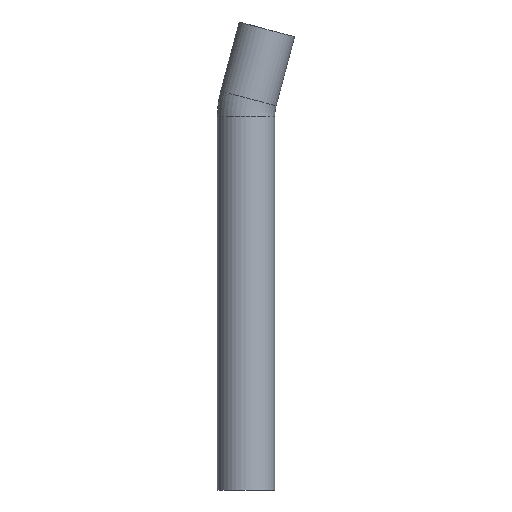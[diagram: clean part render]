
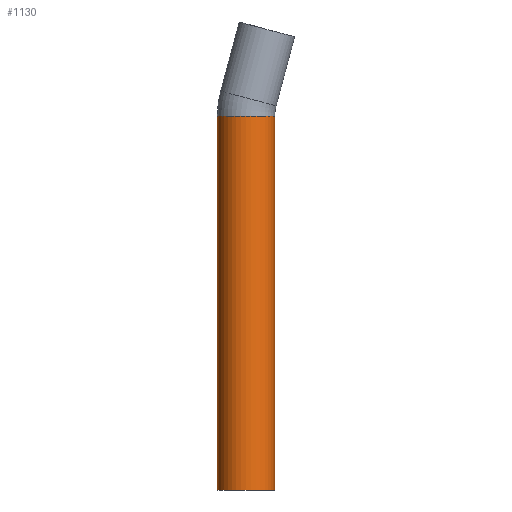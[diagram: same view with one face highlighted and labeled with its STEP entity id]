
A CAD part, front view. The second image highlights one B-rep face of the part: STEP entity #1130.
In plain terms, the highlighted cylindrical face has radius 21 mm (diameter 42 mm), a partial arc.
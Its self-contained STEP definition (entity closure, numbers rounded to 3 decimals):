
#210=CARTESIAN_POINT('',(50.717,48.566,0.));
#220=DIRECTION('',(0.,0.,1.));
#230=DIRECTION('',(1.,0.,0.));
#240=AXIS2_PLACEMENT_3D('',#210,#220,#230);
#250=CIRCLE('',#240,21.);
#260=CARTESIAN_POINT('',(71.717,48.566,0.));
#270=VERTEX_POINT('',#260);
#280=CARTESIAN_POINT('',(29.717,48.566,0.));
#290=VERTEX_POINT('',#280);
#320=EDGE_CURVE('',#290,#270,#250,.T.);
#820=CARTESIAN_POINT('',(50.717,48.566,0.));
#830=DIRECTION('',(0.,0.,1.));
#840=DIRECTION('',(1.,0.,0.));
#850=AXIS2_PLACEMENT_3D('',#820,#830,#840);
#860=CYLINDRICAL_SURFACE('',#850,21.);
#870=CARTESIAN_POINT('',(71.717,48.566,0.));
#880=DIRECTION('',(0.,0.,1.));
#890=VECTOR('',#880,1.);
#900=LINE('',#870,#890);
#910=CARTESIAN_POINT('',(71.717,48.566,273.286));
#920=VERTEX_POINT('',#910);
#930=EDGE_CURVE('',#270,#920,#900,.T.);
#940=ORIENTED_EDGE('',*,*,#930,.T.);
#950=ORIENTED_EDGE('',*,*,#320,.T.);
#960=CARTESIAN_POINT('',(29.717,48.566,0.));
#970=DIRECTION('',(0.,0.,1.));
#980=VECTOR('',#970,1.);
#990=LINE('',#960,#980);
#1000=CARTESIAN_POINT('',(29.717,48.566,273.286));
#1010=VERTEX_POINT('',#1000);
#1020=EDGE_CURVE('',#290,#1010,#990,.T.);
#1030=ORIENTED_EDGE('',*,*,#1020,.F.);
#1040=CARTESIAN_POINT('',(50.717,48.566,273.286));
#1050=DIRECTION('',(0.,0.,1.));
#1060=DIRECTION('',(1.,0.,0.));
#1070=AXIS2_PLACEMENT_3D('',#1040,#1050,#1060);
#1080=CIRCLE('',#1070,21.);
#1090=EDGE_CURVE('',#1010,#920,#1080,.T.);
#1100=ORIENTED_EDGE('',*,*,#1090,.F.);
#1110=EDGE_LOOP('',(#1100,#1030,#950,#940));
#1120=FACE_OUTER_BOUND('',#1110,.T.);
#1130=ADVANCED_FACE('',(#1120),#860,.T.);
